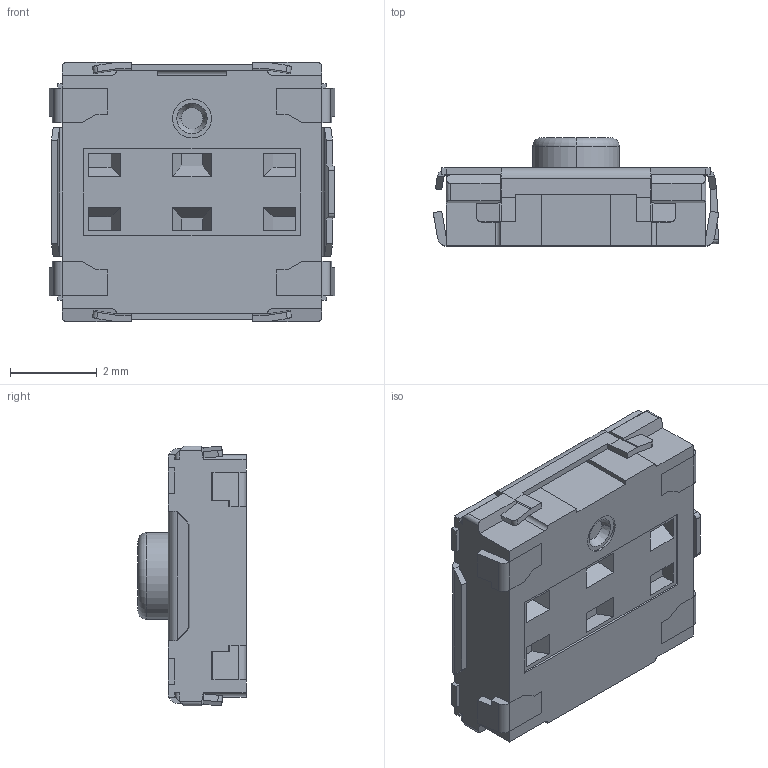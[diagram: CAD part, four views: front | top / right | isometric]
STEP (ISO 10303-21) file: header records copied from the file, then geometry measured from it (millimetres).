
FILE_DESCRIPTION (( 'STEP AP203' ), '1' );
FILE_NAME ('EVQP0-P02B_S02Q.STEP', '2018-08-23T10:03:40', ( '' ), ( '' ), 'SwSTEP 2.0', 'SolidWorks 2016', '' );
FILE_SCHEMA (( 'CONFIG_CONTROL_DESIGN' ));
Length unit declared in the file: millimetre
Products named in the file (1): EVQP0-P02B_S02Q
Bounding box: 6.6 x 2.5 x 6 mm (x, y, z)
Volume: 63.1 mm3; surface area: 158.7 mm2
Topology: 5 solids, 5 shells, 292 faces, 765 edges, 494 vertices
Faces by surface type: plane 235, cylinder 53, torus 2, cone 2
Entity records: 8906 total; most frequent: CARTESIAN_POINT 1642, ORIENTED_EDGE 1530, DIRECTION 1429, EDGE_CURVE 765, LINE 627, VECTOR 627, VERTEX_POINT 494, AXIS2_PLACEMENT_3D 401
